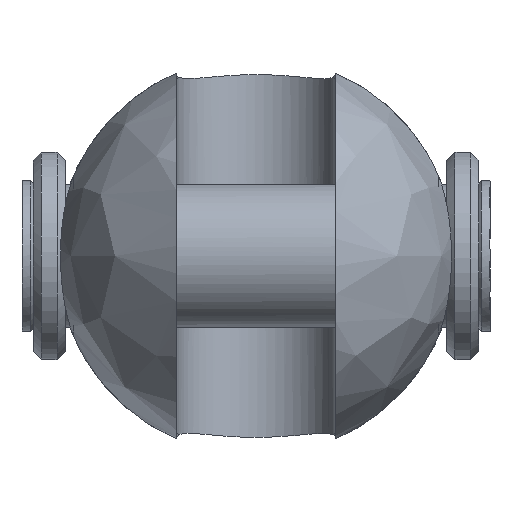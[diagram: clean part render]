
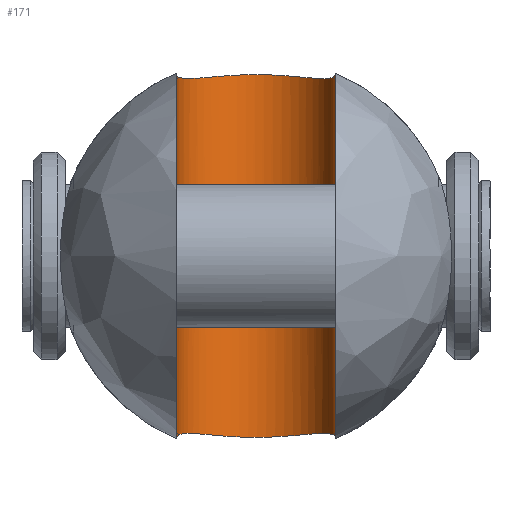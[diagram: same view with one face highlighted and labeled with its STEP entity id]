
A CAD part, left-side view. The second image highlights one B-rep face of the part: STEP entity #171.
In plain terms, the highlighted cylindrical face has radius 5 mm (diameter 10 mm), a partial arc.
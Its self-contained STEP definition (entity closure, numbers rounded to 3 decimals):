
#171=ADVANCED_FACE('',(#312),#2366,.F.);
#312=FACE_OUTER_BOUND('',#471,.T.);
#471=EDGE_LOOP('',(#1120,#1121,#1122,#1123,#1124,#1125,#1126,#1127));
#1120=ORIENTED_EDGE('',*,*,#1568,.F.);
#1121=ORIENTED_EDGE('',*,*,#1569,.F.);
#1122=ORIENTED_EDGE('',*,*,#1585,.F.);
#1123=ORIENTED_EDGE('',*,*,#1570,.F.);
#1124=ORIENTED_EDGE('',*,*,#1571,.F.);
#1125=ORIENTED_EDGE('',*,*,#1572,.F.);
#1126=ORIENTED_EDGE('',*,*,#1588,.F.);
#1127=ORIENTED_EDGE('',*,*,#1567,.F.);
#1567=EDGE_CURVE('',#2233,#2234,#1759,.T.);
#1568=EDGE_CURVE('',#2235,#2233,#1760,.T.);
#1569=EDGE_CURVE('',#2236,#2235,#1761,.T.);
#1570=EDGE_CURVE('',#2238,#2237,#1762,.T.);
#1571=EDGE_CURVE('',#2239,#2238,#1763,.T.);
#1572=EDGE_CURVE('',#2240,#2239,#1764,.T.);
#1585=EDGE_CURVE('',#2237,#2236,#1769,.T.);
#1588=EDGE_CURVE('',#2234,#2240,#1770,.T.);
#1759=B_SPLINE_CURVE_WITH_KNOTS('',3,(#5866,#5867,#5868,#5869),
 .UNSPECIFIED.,.F.,.F.,(4,4),(-1.406,0.),.UNSPECIFIED.);
#1760=B_SPLINE_CURVE_WITH_KNOTS('',1,(#5870,#5871),.UNSPECIFIED.,.F.,.F.,
(2,2),(-22.739,0.),.UNSPECIFIED.);
#1761=B_SPLINE_CURVE_WITH_KNOTS('',3,(#5872,#5873,#5874,#5875),
 .UNSPECIFIED.,.F.,.F.,(4,4),(-1.406,0.),.UNSPECIFIED.);
#1762=B_SPLINE_CURVE_WITH_KNOTS('',3,(#5876,#5877,#5878,#5879),
 .UNSPECIFIED.,.F.,.F.,(4,4),(-1.406,0.),.UNSPECIFIED.);
#1763=B_SPLINE_CURVE_WITH_KNOTS('',1,(#5880,#5881),.UNSPECIFIED.,.F.,.F.,
(2,2),(-22.739,0.),.UNSPECIFIED.);
#1764=B_SPLINE_CURVE_WITH_KNOTS('',3,(#5882,#5883,#5884,#5885),
 .UNSPECIFIED.,.F.,.F.,(4,4),(-1.406,0.),.UNSPECIFIED.);
#1769=B_SPLINE_CURVE_WITH_KNOTS('',3,(#5922,#5923,#5924,#5925,#5926,#5927,
#5928,#5929,#5930,#5931,#5932,#5933,#5934,#5935,#5936,#5937,#5938,#5939),
 .UNSPECIFIED.,.F.,.F.,(4,2,2,2,2,2,2,2,4),(0.,0.893,2.754,
4.631,6.508,8.384,10.261,12.122,
13.015),.UNSPECIFIED.);
#1770=B_SPLINE_CURVE_WITH_KNOTS('',3,(#5946,#5947,#5948,#5949,#5950,#5951,
#5952,#5953,#5954,#5955,#5956,#5957,#5958,#5959,#5960,#5961,#5962,#5963),
 .UNSPECIFIED.,.F.,.F.,(4,2,2,2,2,2,2,2,4),(0.,0.893,2.754,
4.631,6.508,8.384,10.261,12.122,
13.015),.UNSPECIFIED.);
#2233=VERTEX_POINT('',#5752);
#2234=VERTEX_POINT('',#5753);
#2235=VERTEX_POINT('',#5754);
#2236=VERTEX_POINT('',#5755);
#2237=VERTEX_POINT('',#5756);
#2238=VERTEX_POINT('',#5757);
#2239=VERTEX_POINT('',#5758);
#2240=VERTEX_POINT('',#5759);
#2366=CYLINDRICAL_SURFACE('',#2589,5.);
#2589=AXIS2_PLACEMENT_3D('',#5363,#2692,$);
#2692=DIRECTION('',(0.,0.,1.));
#5363=CARTESIAN_POINT('',(16.,0.,0.));
#5752=CARTESIAN_POINT('',(16.,5.,11.37));
#5753=CARTESIAN_POINT('',(17.373,4.808,11.198));
#5754=CARTESIAN_POINT('',(16.,5.,-11.37));
#5755=CARTESIAN_POINT('',(17.373,4.808,-11.198));
#5756=CARTESIAN_POINT('',(17.373,-4.808,-11.198));
#5757=CARTESIAN_POINT('',(16.,-5.,-11.37));
#5758=CARTESIAN_POINT('',(16.,-5.,11.37));
#5759=CARTESIAN_POINT('',(17.373,-4.808,11.198));
#5866=CARTESIAN_POINT('',(16.,5.,11.37));
#5867=CARTESIAN_POINT('',(16.448,5.,11.314));
#5868=CARTESIAN_POINT('',(16.917,4.938,11.255));
#5869=CARTESIAN_POINT('',(17.373,4.808,11.198));
#5870=CARTESIAN_POINT('',(16.,5.,-11.37));
#5871=CARTESIAN_POINT('',(16.,5.,11.37));
#5872=CARTESIAN_POINT('',(17.373,4.808,-11.198));
#5873=CARTESIAN_POINT('',(16.917,4.938,-11.255));
#5874=CARTESIAN_POINT('',(16.448,5.,-11.314));
#5875=CARTESIAN_POINT('',(16.,5.,-11.37));
#5876=CARTESIAN_POINT('',(16.,-5.,-11.37));
#5877=CARTESIAN_POINT('',(16.448,-5.,-11.314));
#5878=CARTESIAN_POINT('',(16.917,-4.938,-11.255));
#5879=CARTESIAN_POINT('',(17.373,-4.808,-11.198));
#5880=CARTESIAN_POINT('',(16.,-5.,11.37));
#5881=CARTESIAN_POINT('',(16.,-5.,-11.37));
#5882=CARTESIAN_POINT('',(17.373,-4.808,11.198));
#5883=CARTESIAN_POINT('',(16.917,-4.938,11.255));
#5884=CARTESIAN_POINT('',(16.448,-5.,11.314));
#5885=CARTESIAN_POINT('',(16.,-5.,11.37));
#5922=CARTESIAN_POINT('',(17.373,-4.808,-11.198));
#5923=CARTESIAN_POINT('',(17.657,-4.727,-11.162));
#5924=CARTESIAN_POINT('',(17.938,-4.619,-11.139));
#5925=CARTESIAN_POINT('',(18.769,-4.21,-11.099));
#5926=CARTESIAN_POINT('',(19.279,-3.821,-11.121));
#5927=CARTESIAN_POINT('',(20.08,-2.951,-11.194));
#5928=CARTESIAN_POINT('',(20.427,-2.408,-11.25));
#5929=CARTESIAN_POINT('',(20.887,-1.23,-11.333));
#5930=CARTESIAN_POINT('',(21.,-0.595,-11.359));
#5931=CARTESIAN_POINT('',(21.,0.595,-11.359));
#5932=CARTESIAN_POINT('',(20.887,1.23,-11.333));
#5933=CARTESIAN_POINT('',(20.427,2.408,-11.25));
#5934=CARTESIAN_POINT('',(20.08,2.951,-11.194));
#5935=CARTESIAN_POINT('',(19.279,3.821,-11.121));
#5936=CARTESIAN_POINT('',(18.769,4.21,-11.099));
#5937=CARTESIAN_POINT('',(17.938,4.619,-11.139));
#5938=CARTESIAN_POINT('',(17.657,4.727,-11.162));
#5939=CARTESIAN_POINT('',(17.373,4.808,-11.198));
#5946=CARTESIAN_POINT('',(17.373,4.808,11.198));
#5947=CARTESIAN_POINT('',(17.657,4.727,11.162));
#5948=CARTESIAN_POINT('',(17.938,4.619,11.139));
#5949=CARTESIAN_POINT('',(18.769,4.21,11.099));
#5950=CARTESIAN_POINT('',(19.279,3.821,11.121));
#5951=CARTESIAN_POINT('',(20.08,2.951,11.194));
#5952=CARTESIAN_POINT('',(20.427,2.408,11.25));
#5953=CARTESIAN_POINT('',(20.887,1.23,11.333));
#5954=CARTESIAN_POINT('',(21.,0.595,11.359));
#5955=CARTESIAN_POINT('',(21.,-0.595,11.359));
#5956=CARTESIAN_POINT('',(20.887,-1.23,11.333));
#5957=CARTESIAN_POINT('',(20.427,-2.408,11.25));
#5958=CARTESIAN_POINT('',(20.08,-2.951,11.194));
#5959=CARTESIAN_POINT('',(19.279,-3.821,11.121));
#5960=CARTESIAN_POINT('',(18.769,-4.21,11.099));
#5961=CARTESIAN_POINT('',(17.938,-4.619,11.139));
#5962=CARTESIAN_POINT('',(17.657,-4.727,11.162));
#5963=CARTESIAN_POINT('',(17.373,-4.808,11.198));
